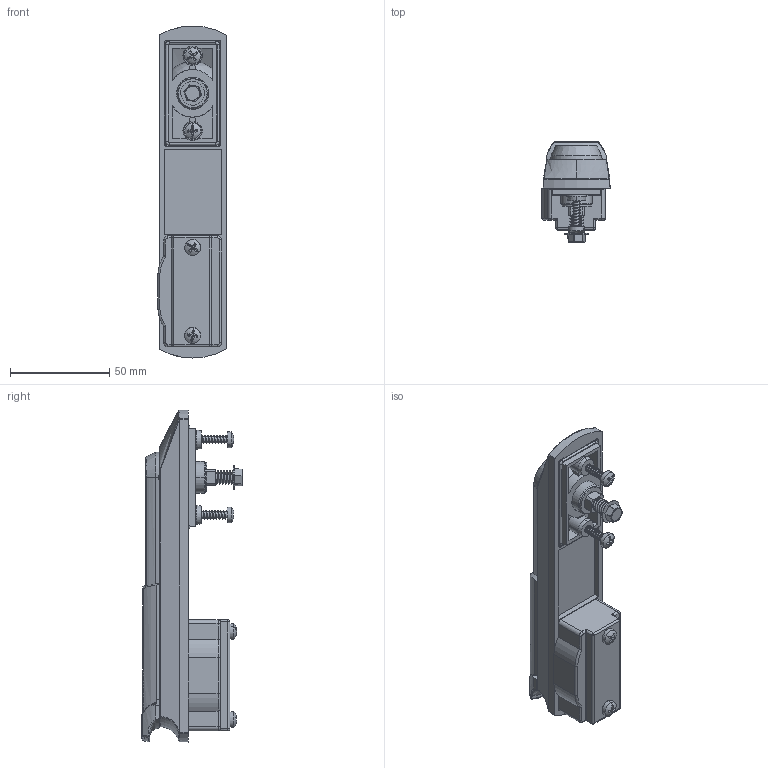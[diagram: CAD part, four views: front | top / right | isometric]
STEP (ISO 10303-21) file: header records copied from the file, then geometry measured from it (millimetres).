
FILE_DESCRIPTION (( 'STEP AP214' ), '1' );
FILE_NAME ('1B.RS710.STEP', '2010-11-05T12:19:56', ( '£ukasz Cieæka' ), ( '' ), 'SwSTEP 2.0', 'SolidWorks 2010', '' );
FILE_SCHEMA (( 'AUTOMOTIVE_DESIGN' ));
Length unit declared in the file: millimetre
Products named in the file (13): 1B.RS300.01.05.00; 1B.RS710; 1B.RS300.02.02.00; 1B.RS700.01.07.00; 1B.RS710.02.01.00; 1B.RS710.01.01.00; O-RING 12x2; O-RING 42 x 1,5; Wkrêt 4,1 x 23; 1B.RS100.01.03.00; 1B.RS100.01.04.00; M6 x 22; 1B.RS700.01.02.00
Assembly tree (16 placements, depth 2):
  1B.RS710
    Wkrêt 4,1 x 23  x4
    M6 x 22
    1B.RS100.01.04.00
    O-RING 42 x 1,5  x2
    O-RING 12x2
    1B.RS300.02.02.00
    1B.RS710.01.01.00
    1B.RS100.01.03.00
    1B.RS300.01.05.00
    1B.RS700.01.02.00
    1B.RS710.02.01.00
    1B.RS700.01.07.00
Bounding box: 34.39 x 50.9 x 167.64 mm (x, y, z)
Volume: 52646.8 mm3; surface area: 61996.3 mm2
Topology: 15 solids, 17 shells, 1031 faces, 2685 edges, 1673 vertices
Faces by surface type: cylinder 406, plane 338, bspline 146, cone 62, torus 40, sphere 39
Entity records: 39319 total; most frequent: CARTESIAN_POINT 20185, ORIENTED_EDGE 4114, DIRECTION 3349, EDGE_CURVE 2057, VERTEX_POINT 1292, AXIS2_PLACEMENT_3D 1259, EDGE_LOOP 843, VECTOR 831
